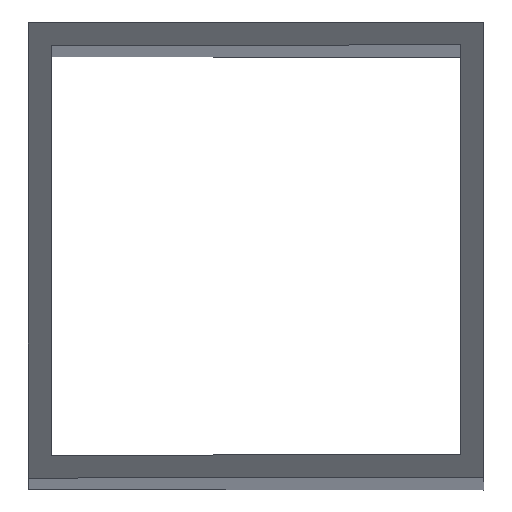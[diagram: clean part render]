
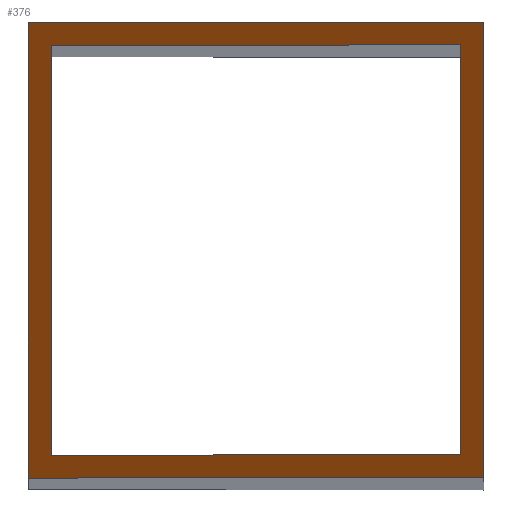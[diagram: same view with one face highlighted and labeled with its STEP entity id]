
A CAD part, top view. The second image highlights one B-rep face of the part: STEP entity #376.
In plain terms, the highlighted planar face has unit normal (-0.707, 0, 0.707).
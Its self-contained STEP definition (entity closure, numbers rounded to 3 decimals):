
#32 = PLANE('',#33);
#33 = AXIS2_PLACEMENT_3D('',#34,#35,#36);
#34 = CARTESIAN_POINT('',(50.,-50.,-50.));
#35 = DIRECTION('',(-0.,1.,-0.));
#36 = DIRECTION('',(1.,0.,0.));
#57 = VERTEX_POINT('',#58);
#58 = CARTESIAN_POINT('',(50.,-50.,1549.304));
#72 = PLANE('',#73);
#73 = AXIS2_PLACEMENT_3D('',#74,#75,#76);
#74 = CARTESIAN_POINT('',(50.,50.,-50.));
#75 = DIRECTION('',(-1.,-0.,-0.));
#76 = DIRECTION('',(0.,1.,0.));
#84 = EDGE_CURVE('',#85,#57,#87,.T.);
#85 = VERTEX_POINT('',#86);
#86 = CARTESIAN_POINT('',(-50.,-50.,1449.304));
#87 = SURFACE_CURVE('',#88,(#92,#99),.PCURVE_S1.);
#88 = LINE('',#89,#90);
#89 = CARTESIAN_POINT('',(-749.652,-50.,749.652));
#90 = VECTOR('',#91,1.);
#91 = DIRECTION('',(0.707,-0.,0.707));
#92 = PCURVE('',#32,#93);
#93 = DEFINITIONAL_REPRESENTATION('',(#94),#98);
#94 = LINE('',#95,#96);
#95 = CARTESIAN_POINT('',(-799.652,-799.652));
#96 = VECTOR('',#97,1.);
#97 = DIRECTION('',(0.707,-0.707));
#98 = ( GEOMETRIC_REPRESENTATION_CONTEXT(2) 
PARAMETRIC_REPRESENTATION_CONTEXT() REPRESENTATION_CONTEXT('2D SPACE',''
  ) );
#99 = PCURVE('',#100,#105);
#100 = PLANE('',#101);
#101 = AXIS2_PLACEMENT_3D('',#102,#103,#104);
#102 = CARTESIAN_POINT('',(-749.652,0.,749.652));
#103 = DIRECTION('',(0.707,0.,-0.707));
#104 = DIRECTION('',(-0.707,0.,-0.707));
#105 = DEFINITIONAL_REPRESENTATION('',(#106),#110);
#106 = LINE('',#107,#108);
#107 = CARTESIAN_POINT('',(-0.,-50.));
#108 = VECTOR('',#109,1.);
#109 = DIRECTION('',(-1.,-0.));
#110 = ( GEOMETRIC_REPRESENTATION_CONTEXT(2) 
PARAMETRIC_REPRESENTATION_CONTEXT() REPRESENTATION_CONTEXT('2D SPACE',''
  ) );
#126 = PLANE('',#127);
#127 = AXIS2_PLACEMENT_3D('',#128,#129,#130);
#128 = CARTESIAN_POINT('',(-50.,-50.,-50.));
#129 = DIRECTION('',(1.,-0.,-0.));
#130 = DIRECTION('',(0.,-1.,0.));
#159 = PLANE('',#160);
#160 = AXIS2_PLACEMENT_3D('',#161,#162,#163);
#161 = CARTESIAN_POINT('',(-50.,50.,-50.));
#162 = DIRECTION('',(-0.,-1.,-0.));
#163 = DIRECTION('',(-1.,0.,0.));
#234 = PLANE('',#235);
#235 = AXIS2_PLACEMENT_3D('',#236,#237,#238);
#236 = CARTESIAN_POINT('',(45.,-45.,-50.));
#237 = DIRECTION('',(-0.,1.,-0.));
#238 = DIRECTION('',(1.,0.,0.));
#262 = PLANE('',#263);
#263 = AXIS2_PLACEMENT_3D('',#264,#265,#266);
#264 = CARTESIAN_POINT('',(45.,45.,-50.));
#265 = DIRECTION('',(-1.,-0.,-0.));
#266 = DIRECTION('',(0.,1.,0.));
#290 = PLANE('',#291);
#291 = AXIS2_PLACEMENT_3D('',#292,#293,#294);
#292 = CARTESIAN_POINT('',(-45.,45.,-50.));
#293 = DIRECTION('',(-0.,-1.,-0.));
#294 = DIRECTION('',(-1.,0.,0.));
#316 = PLANE('',#317);
#317 = AXIS2_PLACEMENT_3D('',#318,#319,#320);
#318 = CARTESIAN_POINT('',(-45.,-45.,-50.));
#319 = DIRECTION('',(1.,-0.,-0.));
#320 = DIRECTION('',(0.,-1.,0.));
#333 = EDGE_CURVE('',#334,#85,#336,.T.);
#334 = VERTEX_POINT('',#335);
#335 = CARTESIAN_POINT('',(-50.,50.,1449.304));
#336 = SURFACE_CURVE('',#337,(#341,#348),.PCURVE_S1.);
#337 = LINE('',#338,#339);
#338 = CARTESIAN_POINT('',(-50.,-25.,1449.304));
#339 = VECTOR('',#340,1.);
#340 = DIRECTION('',(-0.,-1.,0.));
#341 = PCURVE('',#126,#342);
#342 = DEFINITIONAL_REPRESENTATION('',(#343),#347);
#343 = LINE('',#344,#345);
#344 = CARTESIAN_POINT('',(-25.,-1499.304));
#345 = VECTOR('',#346,1.);
#346 = DIRECTION('',(1.,-0.));
#347 = ( GEOMETRIC_REPRESENTATION_CONTEXT(2) 
PARAMETRIC_REPRESENTATION_CONTEXT() REPRESENTATION_CONTEXT('2D SPACE',''
  ) );
#348 = PCURVE('',#100,#349);
#349 = DEFINITIONAL_REPRESENTATION('',(#350),#354);
#350 = LINE('',#351,#352);
#351 = CARTESIAN_POINT('',(-989.458,-25.));
#352 = VECTOR('',#353,1.);
#353 = DIRECTION('',(-0.,-1.));
#354 = ( GEOMETRIC_REPRESENTATION_CONTEXT(2) 
PARAMETRIC_REPRESENTATION_CONTEXT() REPRESENTATION_CONTEXT('2D SPACE',''
  ) );
#376 = ADVANCED_FACE('',(#377,#425),#100,.F.);
#377 = FACE_BOUND('',#378,.T.);
#378 = EDGE_LOOP('',(#379,#402,#423,#424));
#379 = ORIENTED_EDGE('',*,*,#380,.F.);
#380 = EDGE_CURVE('',#381,#57,#383,.T.);
#381 = VERTEX_POINT('',#382);
#382 = CARTESIAN_POINT('',(50.,50.,1549.304));
#383 = SURFACE_CURVE('',#384,(#388,#395),.PCURVE_S1.);
#384 = LINE('',#385,#386);
#385 = CARTESIAN_POINT('',(50.,50.,1549.304));
#386 = VECTOR('',#387,1.);
#387 = DIRECTION('',(-0.,-1.,-0.));
#388 = PCURVE('',#100,#389);
#389 = DEFINITIONAL_REPRESENTATION('',(#390),#394);
#390 = LINE('',#391,#392);
#391 = CARTESIAN_POINT('',(-1130.879,50.));
#392 = VECTOR('',#393,1.);
#393 = DIRECTION('',(-0.,-1.));
#394 = ( GEOMETRIC_REPRESENTATION_CONTEXT(2) 
PARAMETRIC_REPRESENTATION_CONTEXT() REPRESENTATION_CONTEXT('2D SPACE',''
  ) );
#395 = PCURVE('',#72,#396);
#396 = DEFINITIONAL_REPRESENTATION('',(#397),#401);
#397 = LINE('',#398,#399);
#398 = CARTESIAN_POINT('',(-0.,-1599.304));
#399 = VECTOR('',#400,1.);
#400 = DIRECTION('',(-1.,0.));
#401 = ( GEOMETRIC_REPRESENTATION_CONTEXT(2) 
PARAMETRIC_REPRESENTATION_CONTEXT() REPRESENTATION_CONTEXT('2D SPACE',''
  ) );
#402 = ORIENTED_EDGE('',*,*,#403,.T.);
#403 = EDGE_CURVE('',#381,#334,#404,.T.);
#404 = SURFACE_CURVE('',#405,(#409,#416),.PCURVE_S1.);
#405 = LINE('',#406,#407);
#406 = CARTESIAN_POINT('',(-774.652,50.,724.652));
#407 = VECTOR('',#408,1.);
#408 = DIRECTION('',(-0.707,-0.,-0.707));
#409 = PCURVE('',#100,#410);
#410 = DEFINITIONAL_REPRESENTATION('',(#411),#415);
#411 = LINE('',#412,#413);
#412 = CARTESIAN_POINT('',(35.355,50.));
#413 = VECTOR('',#414,1.);
#414 = DIRECTION('',(1.,-0.));
#415 = ( GEOMETRIC_REPRESENTATION_CONTEXT(2) 
PARAMETRIC_REPRESENTATION_CONTEXT() REPRESENTATION_CONTEXT('2D SPACE',''
  ) );
#416 = PCURVE('',#159,#417);
#417 = DEFINITIONAL_REPRESENTATION('',(#418),#422);
#418 = LINE('',#419,#420);
#419 = CARTESIAN_POINT('',(724.652,-774.652));
#420 = VECTOR('',#421,1.);
#421 = DIRECTION('',(0.707,0.707));
#422 = ( GEOMETRIC_REPRESENTATION_CONTEXT(2) 
PARAMETRIC_REPRESENTATION_CONTEXT() REPRESENTATION_CONTEXT('2D SPACE',''
  ) );
#423 = ORIENTED_EDGE('',*,*,#333,.T.);
#424 = ORIENTED_EDGE('',*,*,#84,.T.);
#425 = FACE_BOUND('',#426,.T.);
#426 = EDGE_LOOP('',(#427,#452,#475,#498));
#427 = ORIENTED_EDGE('',*,*,#428,.F.);
#428 = EDGE_CURVE('',#429,#431,#433,.T.);
#429 = VERTEX_POINT('',#430);
#430 = CARTESIAN_POINT('',(-45.,-45.,1454.304));
#431 = VERTEX_POINT('',#432);
#432 = CARTESIAN_POINT('',(45.,-45.,1544.304));
#433 = SURFACE_CURVE('',#434,(#438,#445),.PCURVE_S1.);
#434 = LINE('',#435,#436);
#435 = CARTESIAN_POINT('',(-750.902,-45.,748.402));
#436 = VECTOR('',#437,1.);
#437 = DIRECTION('',(0.707,-0.,0.707));
#438 = PCURVE('',#100,#439);
#439 = DEFINITIONAL_REPRESENTATION('',(#440),#444);
#440 = LINE('',#441,#442);
#441 = CARTESIAN_POINT('',(1.768,-45.));
#442 = VECTOR('',#443,1.);
#443 = DIRECTION('',(-1.,-0.));
#444 = ( GEOMETRIC_REPRESENTATION_CONTEXT(2) 
PARAMETRIC_REPRESENTATION_CONTEXT() REPRESENTATION_CONTEXT('2D SPACE',''
  ) );
#445 = PCURVE('',#234,#446);
#446 = DEFINITIONAL_REPRESENTATION('',(#447),#451);
#447 = LINE('',#448,#449);
#448 = CARTESIAN_POINT('',(-795.902,-798.402));
#449 = VECTOR('',#450,1.);
#450 = DIRECTION('',(0.707,-0.707));
#451 = ( GEOMETRIC_REPRESENTATION_CONTEXT(2) 
PARAMETRIC_REPRESENTATION_CONTEXT() REPRESENTATION_CONTEXT('2D SPACE',''
  ) );
#452 = ORIENTED_EDGE('',*,*,#453,.F.);
#453 = EDGE_CURVE('',#454,#429,#456,.T.);
#454 = VERTEX_POINT('',#455);
#455 = CARTESIAN_POINT('',(-45.,45.,1454.304));
#456 = SURFACE_CURVE('',#457,(#461,#468),.PCURVE_S1.);
#457 = LINE('',#458,#459);
#458 = CARTESIAN_POINT('',(-45.,-22.5,1454.304));
#459 = VECTOR('',#460,1.);
#460 = DIRECTION('',(-0.,-1.,0.));
#461 = PCURVE('',#100,#462);
#462 = DEFINITIONAL_REPRESENTATION('',(#463),#467);
#463 = LINE('',#464,#465);
#464 = CARTESIAN_POINT('',(-996.529,-22.5));
#465 = VECTOR('',#466,1.);
#466 = DIRECTION('',(-0.,-1.));
#467 = ( GEOMETRIC_REPRESENTATION_CONTEXT(2) 
PARAMETRIC_REPRESENTATION_CONTEXT() REPRESENTATION_CONTEXT('2D SPACE',''
  ) );
#468 = PCURVE('',#316,#469);
#469 = DEFINITIONAL_REPRESENTATION('',(#470),#474);
#470 = LINE('',#471,#472);
#471 = CARTESIAN_POINT('',(-22.5,-1504.304));
#472 = VECTOR('',#473,1.);
#473 = DIRECTION('',(1.,-0.));
#474 = ( GEOMETRIC_REPRESENTATION_CONTEXT(2) 
PARAMETRIC_REPRESENTATION_CONTEXT() REPRESENTATION_CONTEXT('2D SPACE',''
  ) );
#475 = ORIENTED_EDGE('',*,*,#476,.F.);
#476 = EDGE_CURVE('',#477,#454,#479,.T.);
#477 = VERTEX_POINT('',#478);
#478 = CARTESIAN_POINT('',(45.,45.,1544.304));
#479 = SURFACE_CURVE('',#480,(#484,#491),.PCURVE_S1.);
#480 = LINE('',#481,#482);
#481 = CARTESIAN_POINT('',(-773.402,45.,725.902));
#482 = VECTOR('',#483,1.);
#483 = DIRECTION('',(-0.707,-0.,-0.707));
#484 = PCURVE('',#100,#485);
#485 = DEFINITIONAL_REPRESENTATION('',(#486),#490);
#486 = LINE('',#487,#488);
#487 = CARTESIAN_POINT('',(33.588,45.));
#488 = VECTOR('',#489,1.);
#489 = DIRECTION('',(1.,-0.));
#490 = ( GEOMETRIC_REPRESENTATION_CONTEXT(2) 
PARAMETRIC_REPRESENTATION_CONTEXT() REPRESENTATION_CONTEXT('2D SPACE',''
  ) );
#491 = PCURVE('',#290,#492);
#492 = DEFINITIONAL_REPRESENTATION('',(#493),#497);
#493 = LINE('',#494,#495);
#494 = CARTESIAN_POINT('',(728.402,-775.902));
#495 = VECTOR('',#496,1.);
#496 = DIRECTION('',(0.707,0.707));
#497 = ( GEOMETRIC_REPRESENTATION_CONTEXT(2) 
PARAMETRIC_REPRESENTATION_CONTEXT() REPRESENTATION_CONTEXT('2D SPACE',''
  ) );
#498 = ORIENTED_EDGE('',*,*,#499,.F.);
#499 = EDGE_CURVE('',#431,#477,#500,.T.);
#500 = SURFACE_CURVE('',#501,(#505,#512),.PCURVE_S1.);
#501 = LINE('',#502,#503);
#502 = CARTESIAN_POINT('',(45.,22.5,1544.304));
#503 = VECTOR('',#504,1.);
#504 = DIRECTION('',(-0.,1.,-0.));
#505 = PCURVE('',#100,#506);
#506 = DEFINITIONAL_REPRESENTATION('',(#507),#511);
#507 = LINE('',#508,#509);
#508 = CARTESIAN_POINT('',(-1123.808,22.5));
#509 = VECTOR('',#510,1.);
#510 = DIRECTION('',(-0.,1.));
#511 = ( GEOMETRIC_REPRESENTATION_CONTEXT(2) 
PARAMETRIC_REPRESENTATION_CONTEXT() REPRESENTATION_CONTEXT('2D SPACE',''
  ) );
#512 = PCURVE('',#262,#513);
#513 = DEFINITIONAL_REPRESENTATION('',(#514),#518);
#514 = LINE('',#515,#516);
#515 = CARTESIAN_POINT('',(-22.5,-1594.304));
#516 = VECTOR('',#517,1.);
#517 = DIRECTION('',(1.,-0.));
#518 = ( GEOMETRIC_REPRESENTATION_CONTEXT(2) 
PARAMETRIC_REPRESENTATION_CONTEXT() REPRESENTATION_CONTEXT('2D SPACE',''
  ) );
